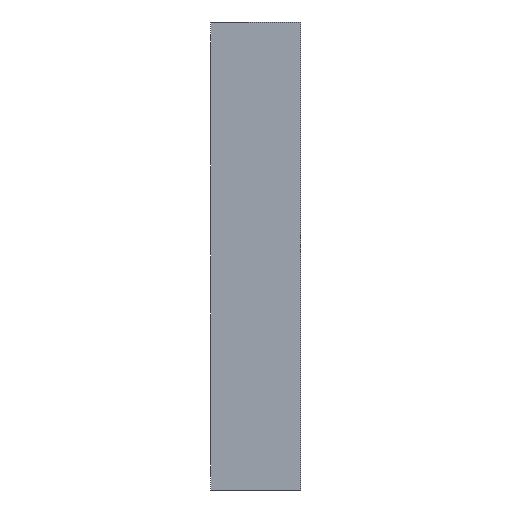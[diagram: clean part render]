
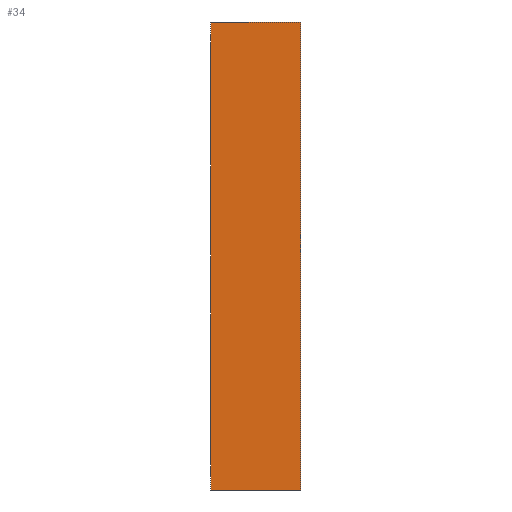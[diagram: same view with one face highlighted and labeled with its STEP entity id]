
A CAD part, left-side view. The second image highlights one B-rep face of the part: STEP entity #34.
In plain terms, the highlighted planar face has unit normal (-1, 0, 0).
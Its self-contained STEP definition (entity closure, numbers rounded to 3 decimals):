
#24 = ORIENTED_EDGE ( 'NONE', *, *, #26, .T. ) ;
#25 = VERTEX_POINT ( 'NONE', #318 ) ;
#26 = EDGE_CURVE ( 'NONE', #28, #25, #316, .T. ) ;
#27 = ORIENTED_EDGE ( 'NONE', *, *, #29, .F. ) ;
#28 = VERTEX_POINT ( 'NONE', #482 ) ;
#29 = EDGE_CURVE ( 'NONE', #28, #30, #589, .T. ) ;
#30 = VERTEX_POINT ( 'NONE', #650 ) ;
#31 = EDGE_CURVE ( 'NONE', #30, #32, #649, .T. ) ;
#32 = VERTEX_POINT ( 'NONE', #533 ) ;
#33 = EDGE_LOOP ( 'NONE', ( #35, #27, #24, #43 ) ) ;
#34 = ADVANCED_FACE ( 'NONE', ( #532 ), #531, .T. ) ;
#35 = ORIENTED_EDGE ( 'NONE', *, *, #31, .F. ) ;
#43 = ORIENTED_EDGE ( 'NONE', *, *, #44, .T. ) ;
#44 = EDGE_CURVE ( 'NONE', #25, #32, #549, .T. ) ;
#313 = DIRECTION ( 'NONE',  ( 0., 0., 1. ) ) ;
#314 = VECTOR ( 'NONE', #313, 1000. ) ;
#315 = CARTESIAN_POINT ( 'NONE',  ( -45., -10., -26. ) ) ;
#316 = LINE ( 'NONE', #315, #314 ) ;
#318 = CARTESIAN_POINT ( 'NONE',  ( -45., -10., 26. ) ) ;
#482 = CARTESIAN_POINT ( 'NONE',  ( -45., -10., -26. ) ) ;
#529 = CARTESIAN_POINT ( 'NONE',  ( -45., -10., -26. ) ) ;
#530 = AXIS2_PLACEMENT_3D ( 'NONE', #529, #588, #587 ) ;
#531 = PLANE ( 'NONE',  #530 ) ;
#532 = FACE_OUTER_BOUND ( 'NONE', #33, .T. ) ;
#533 = CARTESIAN_POINT ( 'NONE',  ( -45., 0., 26. ) ) ;
#534 = DIRECTION ( 'NONE',  ( 0., 0., 1. ) ) ;
#543 = DIRECTION ( 'NONE',  ( 0., 1., 0. ) ) ;
#544 = VECTOR ( 'NONE', #543, 1000. ) ;
#545 = CARTESIAN_POINT ( 'NONE',  ( -45., -10., 26. ) ) ;
#549 = LINE ( 'NONE', #545, #544 ) ;
#587 = DIRECTION ( 'NONE',  ( 0., 0., 1. ) ) ;
#588 = DIRECTION ( 'NONE',  ( -1., 0., 0. ) ) ;
#589 = LINE ( 'NONE', #646, #645 ) ;
#644 = DIRECTION ( 'NONE',  ( 0., 1., 0. ) ) ;
#645 = VECTOR ( 'NONE', #644, 1000. ) ;
#646 = CARTESIAN_POINT ( 'NONE',  ( -45., -10., -26. ) ) ;
#647 = VECTOR ( 'NONE', #534, 1000. ) ;
#648 = CARTESIAN_POINT ( 'NONE',  ( -45., 0., -26. ) ) ;
#649 = LINE ( 'NONE', #648, #647 ) ;
#650 = CARTESIAN_POINT ( 'NONE',  ( -45., 0., -26. ) ) ;
